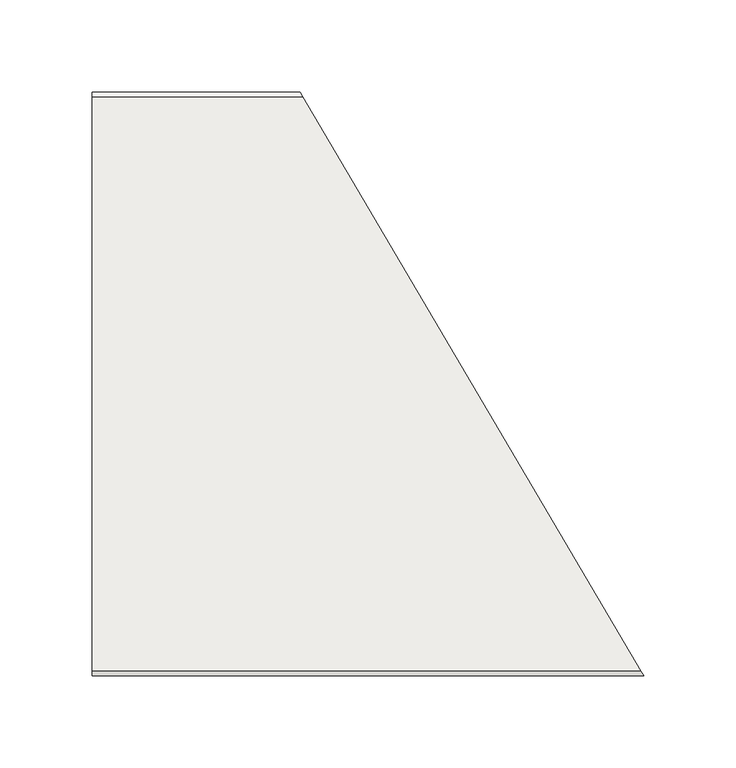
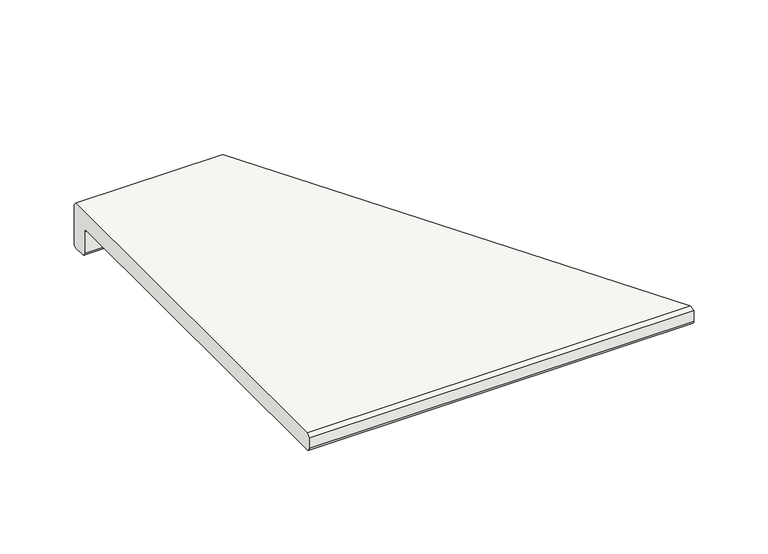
"""IFC4 building model written with IfcOpenShell, lengths in millimetres: slab geometry, ROSA GRES_L62 (corte) : Pieza L62_Serena_Ocra_Anti-Slip."""

import ifcopenshell
import ifcopenshell.guid

model = None  # the IFC model being written
_history = None  # IfcOwnerHistory: only IFC2X3 demands one
_inside = {}  # id of a spatial element -> (the spatial element, [elements in it])
_under = {}  # id of a project, library or spatial element -> (it, [spatial elements below it])
_declared = {}  # id of a project -> (the project, [libraries it declares])
_typed = {}  # id of a type object -> (the type object, [elements of that type])
_made_of = {}  # id of a material, layer set ... -> (it, [elements and type objects made of it])


def new_model(schema):
    """Start an empty IFC model of exactly this schema.

    Asked for "IFC4X3", IfcOpenShell would pick the latest addendum, in which some entities
    have other attributes; the version numbers below select the first issue.
    IFC2X3 requires an IfcOwnerHistory on every rooted entity: one is made here for all.
    """
    global model, _history
    if schema == "IFC4X3":
        model = ifcopenshell.file(schema_version=(4, 3, 0, 0))
    else:
        model = ifcopenshell.file(schema=schema)
    _inside.clear()
    _under.clear()
    _declared.clear()
    _typed.clear()
    _made_of.clear()
    _history = None
    if model.schema == "IFC2X3":
        org = make("IfcOrganization", Name="unknown")
        user = make(
            "IfcPersonAndOrganization",
            ThePerson=make("IfcPerson", FamilyName="unknown"),
            TheOrganization=org,
        )
        app = make(
            "IfcApplication",
            ApplicationDeveloper=org,
            Version="unknown",
            ApplicationFullName="unknown",
            ApplicationIdentifier="unknown",
        )
        _history = make(
            "IfcOwnerHistory",
            OwningUser=user,
            OwningApplication=app,
            ChangeAction="ADDED",
            CreationDate=0,
        )
    return model


def make(cls, **values):
    """One entity of the class cls with the attributes given. An attribute that is None is left unset."""
    return model.create_entity(
        cls, **{name: value for name, value in values.items() if value is not None}
    )


def rooted(cls, **values):
    """An entity with a GlobalId (a new one), such as an element, a storey or a relation."""
    return make(cls, GlobalId=ifcopenshell.guid.new(), OwnerHistory=_history, **values)


def si_unit(unit_type, name, prefix=None):
    """IfcSIUnit, for example si_unit("LENGTHUNIT", "METRE", prefix="MILLI")."""
    return make("IfcSIUnit", UnitType=unit_type, Prefix=prefix, Name=name)


def assignment(units):
    """IfcUnitAssignment: the units of a project."""
    return None if units is None else make("IfcUnitAssignment", Units=units)


def point(xyz):
    """IfcCartesianPoint."""
    return None if xyz is None else make("IfcCartesianPoint", Coordinates=xyz)


def direction(xyz):
    """IfcDirection."""
    return None if xyz is None else make("IfcDirection", DirectionRatios=xyz)


def frame(location, z_axis=None, x_axis=None):
    """IfcAxis2Placement3D, a coordinate frame: its origin and axes. An axis left out is left unset."""
    return make(
        "IfcAxis2Placement3D",
        Location=point(location),
        Axis=direction(z_axis),
        RefDirection=direction(x_axis),
    )


def origin():
    """The frame at (0, 0, 0) with its axes left unset."""
    return frame((0.0, 0.0, 0.0))


def place(relative_to, where):
    """IfcLocalPlacement: puts the frame where relative to a parent placement (None: the world)."""
    return make(
        "IfcLocalPlacement", PlacementRelTo=relative_to, RelativePlacement=where
    )


def context(
    kind, dimensions, precision=None, world=None, true_north=None, identifier=None
):
    """IfcGeometricRepresentationContext, for example the 3D "Model" context."""
    return make(
        "IfcGeometricRepresentationContext",
        ContextIdentifier=identifier,
        ContextType=kind,
        CoordinateSpaceDimension=dimensions,
        Precision=precision,
        WorldCoordinateSystem=world,
        TrueNorth=true_north,
    )


def project(units=None, contexts=None):
    """IfcProject with its units and contexts."""
    return rooted(
        "IfcProject",
        Name="project",
        RepresentationContexts=contexts,
        UnitsInContext=assignment(units),
    )


def spatial(cls, under=None, at=None, **own):
    """A site, building, storey or space (cls), placed at a placement, below another one or the project."""
    s = rooted(cls, ObjectPlacement=at, **own)
    if under is not None:
        _under.setdefault(under.id(), (under, []))[1].append(s)
    return s


def polyline(points):
    """IfcPolyline through the points."""
    return make("IfcPolyline", Points=[point(p) for p in points])


def circle_curve(where, radius):
    """IfcCircle in the frame where."""
    return make("IfcCircle", Position=where, Radius=radius)


def ellipse_curve(where, semi_axis1, semi_axis2):
    """IfcEllipse in the frame where."""
    return make(
        "IfcEllipse", Position=where, SemiAxis1=semi_axis1, SemiAxis2=semi_axis2
    )


def shape(context_of_items, identifier, shape_type, items):
    """IfcShapeRepresentation: the items that make up one representation, for example the "Body"."""
    return make(
        "IfcShapeRepresentation",
        ContextOfItems=context_of_items,
        RepresentationIdentifier=identifier,
        RepresentationType=shape_type,
        Items=items,
    )


def source(mapping_origin, context_of_items, identifier, shape_type, items):
    """IfcRepresentationMap: a shape defined once, which mapped items show again and again."""
    return make(
        "IfcRepresentationMap",
        MappingOrigin=mapping_origin,
        MappedRepresentation=shape(context_of_items, identifier, shape_type, items),
    )


def transform(
    local_origin,
    x_axis=None,
    y_axis=None,
    z_axis=None,
    scale=None,
    scale2=None,
    scale3=None,
    uniform=True,
):
    """IfcCartesianTransformationOperator3D, or its non-uniform kind. x_axis, y_axis, z_axis: its Axis1, 2, 3."""
    if uniform:
        return make(
            "IfcCartesianTransformationOperator3D",
            Axis1=direction(x_axis),
            Axis2=direction(y_axis),
            LocalOrigin=point(local_origin),
            Scale=scale,
            Axis3=direction(z_axis),
        )
    return make(
        "IfcCartesianTransformationOperator3DnonUniform",
        Axis1=direction(x_axis),
        Axis2=direction(y_axis),
        LocalOrigin=point(local_origin),
        Scale=scale,
        Axis3=direction(z_axis),
        Scale2=scale2,
        Scale3=scale3,
    )


def mapped(mapping_source, mapping_target):
    """IfcMappedItem: shows the shape of a source again, moved by a transform."""
    return make(
        "IfcMappedItem", MappingSource=mapping_source, MappingTarget=mapping_target
    )


def made_of(thing, what):
    """Note that an element or type object is made of a material, layer set ...; save() writes the relation."""
    if what is not None:
        _made_of.setdefault(what.id(), (what, []))[1].append(thing)
    return thing


def element(
    cls,
    number,
    at=None,
    inside=None,
    cuts=None,
    type_object=None,
    material=None,
    context=None,
    identifier="Body",
    shape_type=None,
    held_by="IfcProductDefinitionShape",
    body=None,
    shapes=None,
    **own,
):
    """One element of the class cls, such as IfcWall. Its Tag is "e" and its number.

    at: its placement. inside: the storey or other place that contains it. cuts: it is an
    opening in that element (IfcRelVoidsElement). A single representation is given by context,
    identifier, shape_type and body (its items); several are given by shapes. held_by: the class
    of the entity that holds the representations. save() writes the other relations.
    """
    e = rooted(cls, Tag="e%d" % number, ObjectPlacement=at, **own)
    if body is not None:
        shapes = [shape(context, identifier, shape_type, body)]
    if shapes is not None:
        e.Representation = make(held_by, Representations=shapes)
    if inside is not None:
        _inside.setdefault(inside.id(), (inside, []))[1].append(e)
    if cuts is not None:
        rooted(
            "IfcRelVoidsElement", RelatingBuildingElement=cuts, RelatedOpeningElement=e
        )
    if type_object is not None:
        _typed.setdefault(type_object.id(), (type_object, []))[1].append(e)
    return made_of(e, material)


def aggregate(whole, parts):
    """IfcRelAggregates: a whole, such as a stair, and the parts it consists of."""
    return rooted("IfcRelAggregates", RelatingObject=whole, RelatedObjects=parts)


def save(model, path):
    """Write the relations noted so far, then the file.

    IfcRelAggregates (storeys below a building ...), IfcRelContainedInSpatialStructure (elements
    in a storey), IfcRelDefinesByType, IfcRelAssociatesMaterial and IfcRelDeclares: one each for
    every whole, place, type object, material and project.
    """
    for whole, parts in _under.values():
        aggregate(whole, parts)
    for where, things in _inside.values():
        rooted(
            "IfcRelContainedInSpatialStructure",
            RelatedElements=things,
            RelatingStructure=where,
        )
    for kind, things in _typed.values():
        rooted("IfcRelDefinesByType", RelatedObjects=things, RelatingType=kind)
    for what, things in _made_of.values():
        rooted("IfcRelAssociatesMaterial", RelatedObjects=things, RelatingMaterial=what)
    for by, libraries in _declared.values():
        rooted("IfcRelDeclares", RelatingContext=by, RelatedDefinitions=libraries)
    model.write(path)


def plane_surface(at):
    """IfcPlane: the flat surface through the origin of the frame at, square to its z axis."""
    return make("IfcPlane", Position=at)


def cylinder_surface(at, radius):
    """IfcCylindricalSurface: all points at the distance radius from the z axis of the frame at."""
    return make("IfcCylindricalSurface", Position=at, Radius=radius)


def revolved_surface(curve, axis_point, axis_direction):
    """IfcSurfaceOfRevolution: the curve turned about the line through axis_point along axis_direction."""
    return make(
        "IfcSurfaceOfRevolution",
        SweptCurve=make("IfcArbitraryOpenProfileDef", ProfileType="CURVE", Curve=curve),
        AxisPosition=make("IfcAxis1Placement", Location=point(axis_point), Axis=direction(axis_direction)),
    )


def advanced_brep(points, edges, surfaces, faces):
    """IfcAdvancedBrep: a solid bounded by faces that lie on surfaces and meet in shared edges.

    An edge is (start, end): straight between two places in points (the first is 0);
    or (start, end, curve); or (start, end, curve, False) where it runs against its curve.
    A face is (place in surfaces, loops), or (place, loops, False) where it looks against
    its surface's normal. A loop lists edges by number (the first is 1), with a minus sign
    where the edge is run from its end to its start. The first loop is the outer one.
    """
    corners = [point(p) for p in points]
    vertices = [make("IfcVertexPoint", VertexGeometry=c) for c in corners]
    made = []
    for start, end, *more in edges:
        made.append(
            make(
                "IfcEdgeCurve",
                EdgeStart=vertices[start],
                EdgeEnd=vertices[end],
                EdgeGeometry=more[0] if more else make("IfcPolyline", Points=[corners[start], corners[end]]),
                SameSense=more[1] if len(more) > 1 else True,
            )
        )
    hull = []
    for where, loops, *sense in faces:
        bounds = []
        for j, loop in enumerate(loops):
            ring = [make("IfcOrientedEdge", EdgeElement=made[abs(k) - 1], Orientation=k > 0) for k in loop]
            bounds.append(
                make(
                    "IfcFaceOuterBound" if j == 0 else "IfcFaceBound",
                    Bound=make("IfcEdgeLoop", EdgeList=ring),
                    Orientation=True,
                )
            )
        hull.append(make("IfcAdvancedFace", Bounds=bounds, FaceSurface=surfaces[where], SameSense=sense[0] if sense else True))
    return make("IfcAdvancedBrep", Outer=make("IfcClosedShell", CfsFaces=hull))


def slab_0bdd3b43(model_context):
    return source(origin(), model_context, "Body", "AdvancedBrep", [
        advanced_brep(
        [(0.0, 0.0, -20.5), (0.0, -2.5, -23.0), (0.0, -11.5, -23.0), (0.0, -14.0, -20.5), (0.0, -14.0, -2.5), (0.0, -16.5, 0.0), (0.0, -314.5, 0.0), (0.0, -317.0, 2.5), (0.0, -317.0, 11.5), (0.0, -314.5, 14.0), (0.0, -2.5, 14.0), (0.0, 0.0, 11.5), (114.4508198, -2.5, 14.0), (112.9782073, 0.0, 11.5), (299.7054775, -317.0, 11.5), (298.232865, -314.5, 14.0), (114.4508198, -2.5, -23.0), (119.752225, -11.5, -23.0), (298.232865, -314.5, 0.0), (299.7054775, -317.0, 2.5), (112.9782073, 0.0, -20.5), (121.2248375, -14.0, -20.5), (122.6974501, -16.5, 0.0), (121.2248375, -14.0, -2.5)],
        [
            (0, 1, circle_curve(frame((0.0, -2.5, -20.5), z_axis=(-1.0, 0.0, 0.0), x_axis=(0.0, 0.0, -1.0)), 2.5)),
            (1, 2),
            (2, 3, circle_curve(frame((0.0, -11.5, -20.5), z_axis=(-1.0, 0.0, 0.0), x_axis=(0.0, 0.0, -1.0)), 2.5)),
            (3, 4),
            (4, 5, circle_curve(frame((0.0, -16.5, -2.5), z_axis=(1.0, 0.0, 0.0), x_axis=(0.0, 0.0, -1.0)), 2.5)),
            (5, 6),
            (6, 7, circle_curve(frame((0.0, -314.5, 2.5), z_axis=(-1.0, 0.0, 0.0), x_axis=(0.0, 0.0, -1.0)), 2.5)),
            (7, 8),
            (8, 9),
            (9, 10),
            (10, 11),
            (11, 0),
            (10, 12),
            (12, 13),
            (13, 11),
            (8, 14),
            (14, 15),
            (15, 9),
            (1, 16),
            (16, 17),
            (17, 2),
            (6, 18),
            (18, 19, ellipse_curve(frame((298.232865, -314.5, 2.5), z_axis=(-0.8616291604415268, -0.5075383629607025, 0.0), x_axis=(-0.5075383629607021, 0.8616291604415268, 0.0)), 2.9014803, 2.5)),
            (19, 7),
            (19, 14),
            (13, 20),
            (20, 0),
            (20, 16, ellipse_curve(frame((114.4508198, -2.5, -20.5), z_axis=(-0.8616291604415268, -0.5075383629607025, 0.0), x_axis=(-0.5075383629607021, 0.8616291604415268, 0.0)), 2.9014803, 2.5)),
            (17, 21, ellipse_curve(frame((119.752225, -11.5, -20.5), z_axis=(-0.8616291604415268, -0.5075383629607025, 0.0), x_axis=(-0.5075383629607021, 0.8616291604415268, 0.0)), 2.9014803, 2.5)),
            (21, 3),
            (15, 12),
            (5, 22),
            (22, 18),
            (4, 23),
            (23, 22, ellipse_curve(frame((122.6974501, -16.5, -2.5), z_axis=(0.8616291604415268, 0.5075383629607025, 0.0), x_axis=(0.5075383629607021, -0.8616291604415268, 0.0)), 2.9014803, 2.5)),
            (21, 23),
        ],
        [
            plane_surface(frame((0.0, 0.0, 0.0), z_axis=(-1.0, 0.0, 0.0), x_axis=(0.0, 0.0, 1.0))),
            plane_surface(frame((0.0, 0.0, 11.5), z_axis=(0.0, 0.707106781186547, 0.7071067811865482), x_axis=(1.0, 0.0, 0.0))),
            plane_surface(frame((0.0, -314.5, 14.0), z_axis=(0.0, -0.707106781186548, 0.707106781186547), x_axis=(1.0, 0.0, 0.0))),
            plane_surface(frame((0.0, -11.5, -23.0), z_axis=(0.0, 0.0, -1.0), x_axis=(1.0, 0.0, 0.0))),
            cylinder_surface(frame((0.0, -314.5, 2.5), z_axis=(-1.0, 0.0, 0.0), x_axis=(0.0, 0.0, -1.0)), 2.5),
            plane_surface(frame((0.0, -317.0, 11.5), z_axis=(0.0, -1.0, 0.0), x_axis=(1.0, 0.0, 0.0))),
            plane_surface(frame((0.0, 0.0, -20.5), z_axis=(0.0, 1.0, 0.0), x_axis=(1.0, 0.0, 0.0))),
            cylinder_surface(frame((0.0, -2.5, -20.5), z_axis=(-1.0, 0.0, 0.0), x_axis=(0.0, 0.0, -1.0)), 2.5),
            cylinder_surface(frame((0.0, -11.5, -20.5), z_axis=(-1.0, 0.0, 0.0), x_axis=(0.0, 0.0, -1.0)), 2.5),
            plane_surface(frame((0.0, -2.5, 14.0), z_axis=(0.0, 0.0, 1.0), x_axis=(1.0, 0.0, 0.0))),
            plane_surface(frame((0.0, -314.5, 0.0), z_axis=(0.0, 0.0, -1.0), x_axis=(1.0, 0.0, 0.0))),
            revolved_surface(polyline([(124.17006266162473, -16.5, -5.0), (0.0, -16.5, -5.0)]), (0.0, -16.5, -2.5), (1.0, 0.0, 0.0)),
            plane_surface(frame((0.0, -14.0, -2.5), z_axis=(0.0, -1.0, 0.0), x_axis=(1.0, 0.0, 0.0))),
            plane_surface(frame((300.0, -317.5, 86.9871832), z_axis=(0.8616291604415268, 0.5075383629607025, 0.0), x_axis=(0.0, 0.0, -1.0))),
        ],
        [
            (0, [[1, 2, 3, 4, 5, 6, 7, 8, 9, 10, 11, 12]]),
            (1, [[13, 14, 15, -11]]),
            (2, [[16, 17, 18, -9]]),
            (3, [[19, 20, 21, -2]]),
            (4, [[22, 23, 24, -7]]),
            (5, [[-24, 25, -16, -8]]),
            (6, [[-15, 26, 27, -12]]),
            (7, [[-27, 28, -19, -1]]),
            (8, [[-21, 29, 30, -3]]),
            (9, [[-18, 31, -13, -10]]),
            (10, [[32, 33, -22, -6]]),
            (11, [[34, 35, -32, -5]]),
            (12, [[-30, 36, -34, -4]]),
            (13, [[-14, -31, -17, -25, -23, -33, -35, -36, -29, -20, -28, -26]]),
        ],
    ),
    ])


if __name__ == "__main__":
    model = new_model("IFC4")
    model_context = context("Model", 3, world=origin())
    ifc_project = project(units=[si_unit("LENGTHUNIT", "METRE", prefix="MILLI")], contexts=[model_context])
    site = spatial("IfcSite", under=ifc_project)
    building = spatial("IfcBuilding", under=site)
    placement = place(None, origin())
    slab_shape = slab_0bdd3b43(model_context)
    element("IfcSlab", 1, ObjectType="ROSA GRES_L62 (corte) : Pieza L62_Serena_Ocra_Anti-Slip", at=placement, inside=building, context=model_context, shape_type="MappedRepresentation", body=[
        mapped(slab_shape, transform((0.0, 0.0, 0.0), x_axis=(1.0, 0.0, 0.0), y_axis=(0.0, 1.0, 0.0), z_axis=(0.0, 0.0, 1.0))),
    ])
    save(model, "model.ifc")
